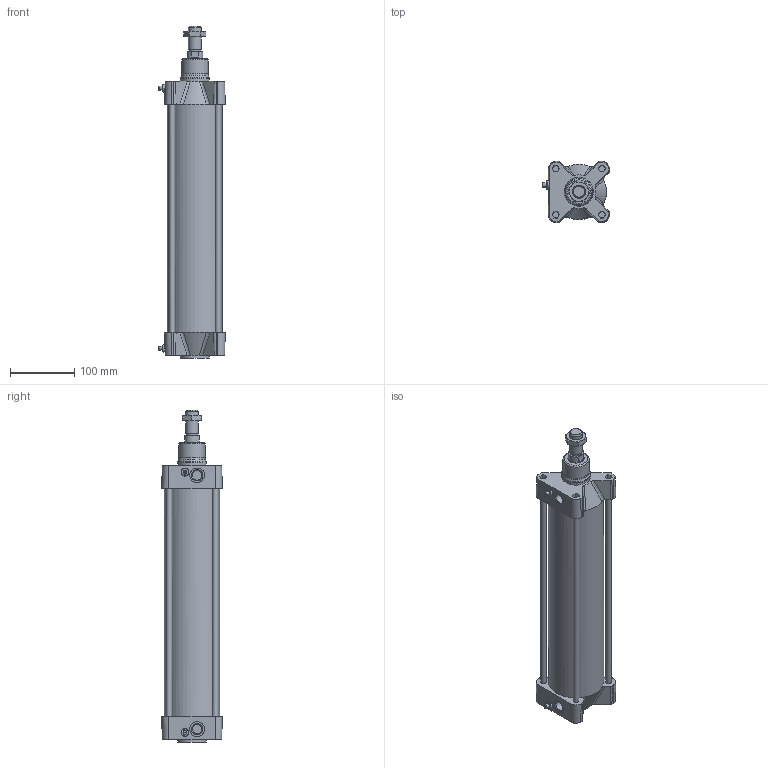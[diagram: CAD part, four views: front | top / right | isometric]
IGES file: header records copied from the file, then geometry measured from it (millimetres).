
Global section: file name: 1393_080_0300_01; native system: Autodesk Inventor 2014; preprocessor: unknown; author: A. Manieri; date: 20151130.150802; units: millimetre
Bounding box: 104 x 95 x 518 mm (x, y, z)
Volume: 1343213.2 mm3; surface area: 354892.7 mm2
Topology: 3 solids, 5 shells, 233 faces, 578 edges, 377 vertices
Faces by surface type: bspline 233
